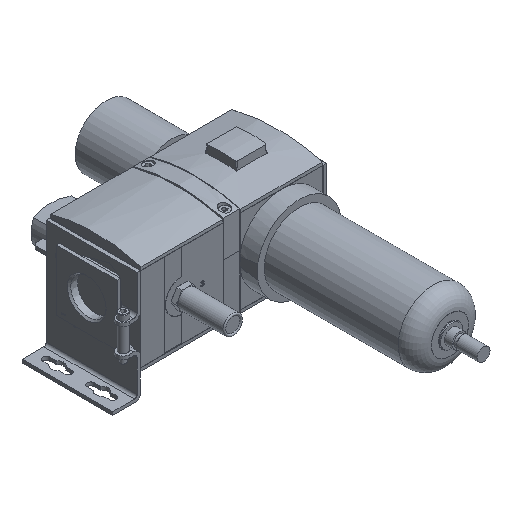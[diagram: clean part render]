
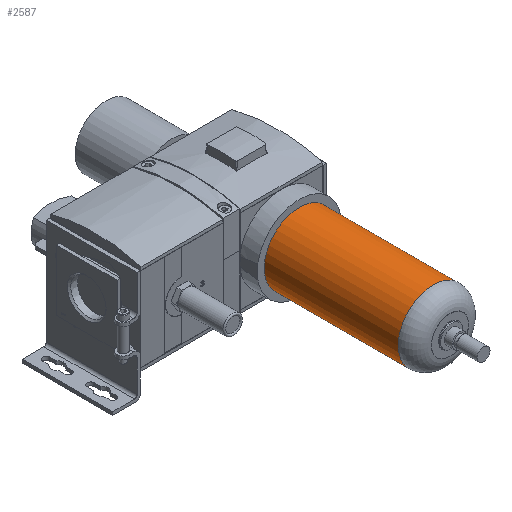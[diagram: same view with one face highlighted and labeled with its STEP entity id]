
A CAD part, isometric view. The second image highlights one B-rep face of the part: STEP entity #2587.
In plain terms, the highlighted cylindrical face has radius 31.75 mm (diameter 63.5 mm), a full revolution.
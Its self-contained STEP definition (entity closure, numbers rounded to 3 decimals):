
#2587 = ADVANCED_FACE( '', ( #5492, #5493 ), #5494, .T. );
#5492 = FACE_OUTER_BOUND( '', #8787, .T. );
#5493 = FACE_OUTER_BOUND( '', #8788, .T. );
#5494 = CYLINDRICAL_SURFACE( '', #8789, 31.75 );
#8787 = EDGE_LOOP( '', ( #15376 ) );
#8788 = EDGE_LOOP( '', ( #15377 ) );
#8789 = AXIS2_PLACEMENT_3D( '', #15378, #15379, #15380 );
#15376 = ORIENTED_EDGE( '', *, *, #21346, .F. );
#15377 = ORIENTED_EDGE( '', *, *, #20940, .T. );
#15378 = CARTESIAN_POINT( '', ( 0., -136.7, 0. ) );
#15379 = DIRECTION( '', ( 0., 1., 0. ) );
#15380 = DIRECTION( '', ( 0., 0., -1. ) );
#20940 = EDGE_CURVE( '', #25621, #25621, #25622, .T. );
#21346 = EDGE_CURVE( '', #26153, #26153, #26154, .T. );
#25621 = VERTEX_POINT( '', #32098 );
#25622 = CIRCLE( '', #32099, 31.75 );
#26153 = VERTEX_POINT( '', #32890 );
#26154 = CIRCLE( '', #32891, 31.75 );
#32098 = CARTESIAN_POINT( '', ( 0., 0., -31.75 ) );
#32099 = AXIS2_PLACEMENT_3D( '', #36861, #36862, #36863 );
#32890 = CARTESIAN_POINT( '', ( 0., -121.1, -31.75 ) );
#32891 = AXIS2_PLACEMENT_3D( '', #37294, #37295, #37296 );
#36861 = CARTESIAN_POINT( '', ( 0., 0., 0. ) );
#36862 = DIRECTION( '', ( 0., -1., 0. ) );
#36863 = DIRECTION( '', ( 0., 0., -1. ) );
#37294 = CARTESIAN_POINT( '', ( 0., -121.1, 0. ) );
#37295 = DIRECTION( '', ( 0., -1., 0. ) );
#37296 = DIRECTION( '', ( 0., 0., -1. ) );
